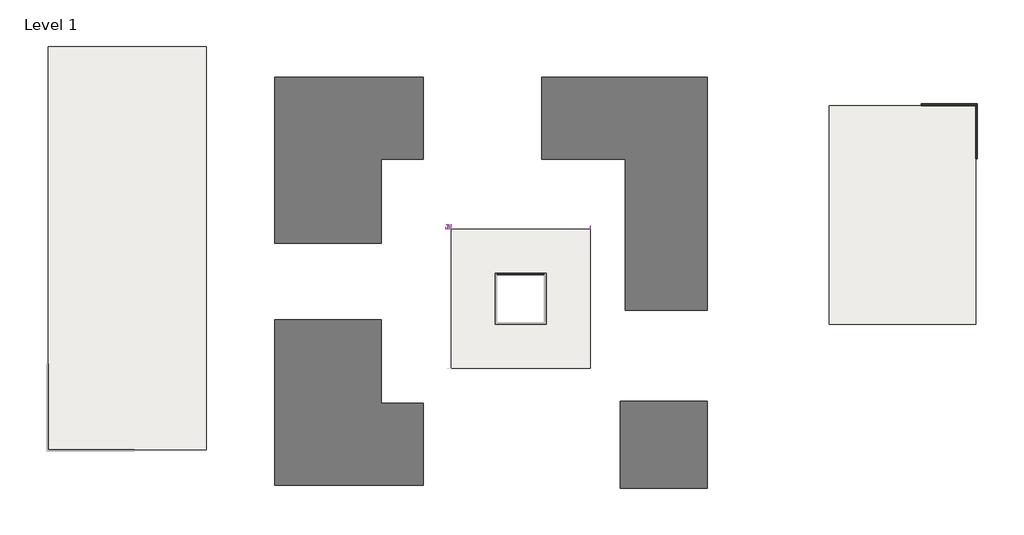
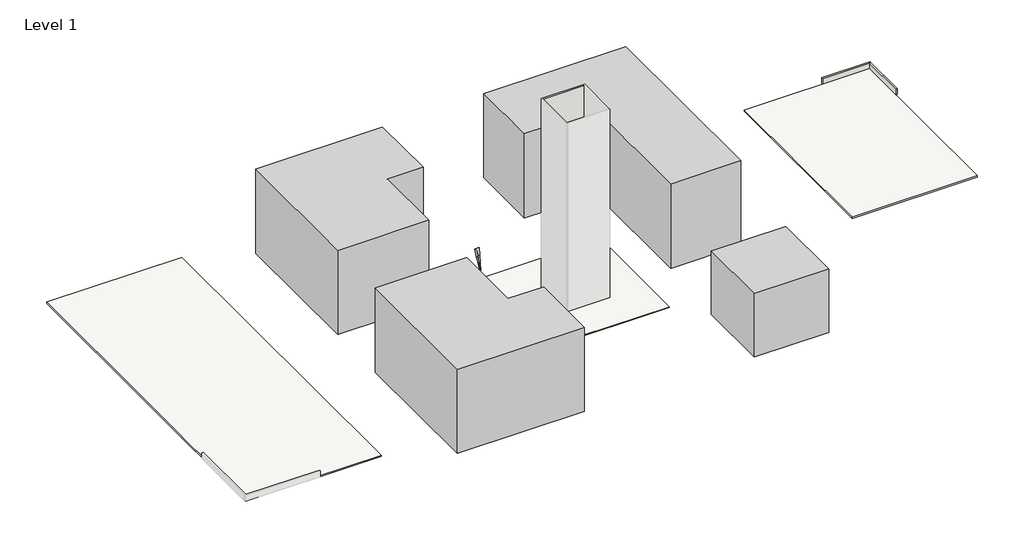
# One storey, part 2 of 2: 9 plates, 4 proxies, 3 slabs, 3 walls.
"""IFC4 building model written with IfcOpenShell, lengths in millimetres."""

import ifcopenshell
import ifcopenshell.guid

model = None  # the IFC model being written
_history = None  # IfcOwnerHistory: only IFC2X3 demands one
_inside = {}  # id of a spatial element -> (the spatial element, [elements in it])
_under = {}  # id of a project, library or spatial element -> (it, [spatial elements below it])
_declared = {}  # id of a project -> (the project, [libraries it declares])
_typed = {}  # id of a type object -> (the type object, [elements of that type])
_made_of = {}  # id of a material, layer set ... -> (it, [elements and type objects made of it])


def new_model(schema):
    """Start an empty IFC model of exactly this schema.

    Asked for "IFC4X3", IfcOpenShell would pick the latest addendum, in which some entities
    have other attributes; the version numbers below select the first issue.
    IFC2X3 requires an IfcOwnerHistory on every rooted entity: one is made here for all.
    """
    global model, _history
    if schema == "IFC4X3":
        model = ifcopenshell.file(schema_version=(4, 3, 0, 0))
    else:
        model = ifcopenshell.file(schema=schema)
    _inside.clear()
    _under.clear()
    _declared.clear()
    _typed.clear()
    _made_of.clear()
    _history = None
    if model.schema == "IFC2X3":
        org = make("IfcOrganization", Name="unknown")
        user = make(
            "IfcPersonAndOrganization",
            ThePerson=make("IfcPerson", FamilyName="unknown"),
            TheOrganization=org,
        )
        app = make(
            "IfcApplication",
            ApplicationDeveloper=org,
            Version="unknown",
            ApplicationFullName="unknown",
            ApplicationIdentifier="unknown",
        )
        _history = make(
            "IfcOwnerHistory",
            OwningUser=user,
            OwningApplication=app,
            ChangeAction="ADDED",
            CreationDate=0,
        )
    return model


def make(cls, **values):
    """One entity of the class cls with the attributes given. An attribute that is None is left unset."""
    return model.create_entity(
        cls, **{name: value for name, value in values.items() if value is not None}
    )


def rooted(cls, **values):
    """An entity with a GlobalId (a new one), such as an element, a storey or a relation."""
    return make(cls, GlobalId=ifcopenshell.guid.new(), OwnerHistory=_history, **values)


def si_unit(unit_type, name, prefix=None):
    """IfcSIUnit, for example si_unit("LENGTHUNIT", "METRE", prefix="MILLI")."""
    return make("IfcSIUnit", UnitType=unit_type, Prefix=prefix, Name=name)


def assignment(units):
    """IfcUnitAssignment: the units of a project."""
    return None if units is None else make("IfcUnitAssignment", Units=units)


def point(xyz):
    """IfcCartesianPoint."""
    return None if xyz is None else make("IfcCartesianPoint", Coordinates=xyz)


def direction(xyz):
    """IfcDirection."""
    return None if xyz is None else make("IfcDirection", DirectionRatios=xyz)


def frame(location, z_axis=None, x_axis=None):
    """IfcAxis2Placement3D, a coordinate frame: its origin and axes. An axis left out is left unset."""
    return make(
        "IfcAxis2Placement3D",
        Location=point(location),
        Axis=direction(z_axis),
        RefDirection=direction(x_axis),
    )


def origin():
    """The frame at (0, 0, 0) with its axes left unset."""
    return frame((0.0, 0.0, 0.0))


def origin_with_axes():
    """The frame at (0, 0, 0) with the z axis (0, 0, 1) and the x axis (1, 0, 0) written out."""
    return frame((0.0, 0.0, 0.0), z_axis=(0.0, 0.0, 1.0), x_axis=(1.0, 0.0, 0.0))


def place(relative_to, where):
    """IfcLocalPlacement: puts the frame where relative to a parent placement (None: the world)."""
    return make(
        "IfcLocalPlacement", PlacementRelTo=relative_to, RelativePlacement=where
    )


def context(
    kind, dimensions, precision=None, world=None, true_north=None, identifier=None
):
    """IfcGeometricRepresentationContext, for example the 3D "Model" context."""
    return make(
        "IfcGeometricRepresentationContext",
        ContextIdentifier=identifier,
        ContextType=kind,
        CoordinateSpaceDimension=dimensions,
        Precision=precision,
        WorldCoordinateSystem=world,
        TrueNorth=true_north,
    )


def project(units=None, contexts=None):
    """IfcProject with its units and contexts."""
    return rooted(
        "IfcProject",
        Name="project",
        RepresentationContexts=contexts,
        UnitsInContext=assignment(units),
    )


def spatial(cls, under=None, at=None, **own):
    """A site, building, storey or space (cls), placed at a placement, below another one or the project."""
    s = rooted(cls, ObjectPlacement=at, **own)
    if under is not None:
        _under.setdefault(under.id(), (under, []))[1].append(s)
    return s


def polyline(points):
    """IfcPolyline through the points."""
    return make("IfcPolyline", Points=[point(p) for p in points])


def outline(outer, holes=None, kind="AREA"):
    """IfcArbitraryClosedProfileDef: a profile drawn as a closed curve; with holes, ...WithVoids."""
    if holes is None:
        return make("IfcArbitraryClosedProfileDef", ProfileType=kind, OuterCurve=outer)
    return make(
        "IfcArbitraryProfileDefWithVoids",
        ProfileType=kind,
        OuterCurve=outer,
        InnerCurves=holes,
    )


def extrude(swept, where, along, depth):
    """IfcExtrudedAreaSolid: the profile swept, set in the frame where, extruded along a direction by depth."""
    return make(
        "IfcExtrudedAreaSolid",
        SweptArea=swept,
        Position=where,
        ExtrudedDirection=direction(along),
        Depth=depth,
    )


def faces_of(points, faces, orient=None, outer=None):
    """IfcFace entities. A face is a list of loops; a loop is a list of indices into points, from 0.

    orient and outer hold one flag for each loop. By default every Orientation is true, the
    first loop of a face is its IfcFaceOuterBound and the others are IfcFaceBound.
    """
    made = []
    for i, loops in enumerate(faces):
        bounds = []
        for j, loop in enumerate(loops):
            is_outer = j == 0 if outer is None else outer[i][j]
            bounds.append(
                make(
                    "IfcFaceOuterBound" if is_outer else "IfcFaceBound",
                    Bound=make("IfcPolyLoop", Polygon=[points[k] for k in loop]),
                    Orientation=True if orient is None else orient[i][j],
                )
            )
        made.append(make("IfcFace", Bounds=bounds))
    return made


def faceted_brep(points, faces, orient=None, outer=None, voids=None):
    """IfcFacetedBrep: a solid bounded by flat faces; with voids (closed shells), ...WithVoids."""
    shared = [point(p) for p in points]
    hull = make("IfcClosedShell", CfsFaces=faces_of(shared, faces, orient, outer))
    if voids is None:
        return make("IfcFacetedBrep", Outer=hull)
    return make(
        "IfcFacetedBrepWithVoids",
        Outer=hull,
        Voids=[
            make(cls, CfsFaces=faces_of(shared, fs, o, b)) for cls, fs, o, b in voids
        ],
    )


def shape(context_of_items, identifier, shape_type, items):
    """IfcShapeRepresentation: the items that make up one representation, for example the "Body"."""
    return make(
        "IfcShapeRepresentation",
        ContextOfItems=context_of_items,
        RepresentationIdentifier=identifier,
        RepresentationType=shape_type,
        Items=items,
    )


def source(mapping_origin, context_of_items, identifier, shape_type, items):
    """IfcRepresentationMap: a shape defined once, which mapped items show again and again."""
    return make(
        "IfcRepresentationMap",
        MappingOrigin=mapping_origin,
        MappedRepresentation=shape(context_of_items, identifier, shape_type, items),
    )


def transform(
    local_origin,
    x_axis=None,
    y_axis=None,
    z_axis=None,
    scale=None,
    scale2=None,
    scale3=None,
    uniform=True,
):
    """IfcCartesianTransformationOperator3D, or its non-uniform kind. x_axis, y_axis, z_axis: its Axis1, 2, 3."""
    if uniform:
        return make(
            "IfcCartesianTransformationOperator3D",
            Axis1=direction(x_axis),
            Axis2=direction(y_axis),
            LocalOrigin=point(local_origin),
            Scale=scale,
            Axis3=direction(z_axis),
        )
    return make(
        "IfcCartesianTransformationOperator3DnonUniform",
        Axis1=direction(x_axis),
        Axis2=direction(y_axis),
        LocalOrigin=point(local_origin),
        Scale=scale,
        Axis3=direction(z_axis),
        Scale2=scale2,
        Scale3=scale3,
    )


def mapped(mapping_source, mapping_target):
    """IfcMappedItem: shows the shape of a source again, moved by a transform."""
    return make(
        "IfcMappedItem", MappingSource=mapping_source, MappingTarget=mapping_target
    )


def made_of(thing, what):
    """Note that an element or type object is made of a material, layer set ...; save() writes the relation."""
    if what is not None:
        _made_of.setdefault(what.id(), (what, []))[1].append(thing)
    return thing


def element(
    cls,
    number,
    at=None,
    inside=None,
    cuts=None,
    type_object=None,
    material=None,
    context=None,
    identifier="Body",
    shape_type=None,
    held_by="IfcProductDefinitionShape",
    body=None,
    shapes=None,
    **own,
):
    """One element of the class cls, such as IfcWall. Its Tag is "e" and its number.

    at: its placement. inside: the storey or other place that contains it. cuts: it is an
    opening in that element (IfcRelVoidsElement). A single representation is given by context,
    identifier, shape_type and body (its items); several are given by shapes. held_by: the class
    of the entity that holds the representations. save() writes the other relations.
    """
    e = rooted(cls, Tag="e%d" % number, ObjectPlacement=at, **own)
    if body is not None:
        shapes = [shape(context, identifier, shape_type, body)]
    if shapes is not None:
        e.Representation = make(held_by, Representations=shapes)
    if inside is not None:
        _inside.setdefault(inside.id(), (inside, []))[1].append(e)
    if cuts is not None:
        rooted(
            "IfcRelVoidsElement", RelatingBuildingElement=cuts, RelatedOpeningElement=e
        )
    if type_object is not None:
        _typed.setdefault(type_object.id(), (type_object, []))[1].append(e)
    return made_of(e, material)


def aggregate(whole, parts):
    """IfcRelAggregates: a whole, such as a stair, and the parts it consists of."""
    return rooted("IfcRelAggregates", RelatingObject=whole, RelatedObjects=parts)


def save(model, path):
    """Write the relations noted so far, then the file.

    IfcRelAggregates (storeys below a building ...), IfcRelContainedInSpatialStructure (elements
    in a storey), IfcRelDefinesByType, IfcRelAssociatesMaterial and IfcRelDeclares: one each for
    every whole, place, type object, material and project.
    """
    for whole, parts in _under.values():
        aggregate(whole, parts)
    for where, things in _inside.values():
        rooted(
            "IfcRelContainedInSpatialStructure",
            RelatedElements=things,
            RelatingStructure=where,
        )
    for kind, things in _typed.values():
        rooted("IfcRelDefinesByType", RelatedObjects=things, RelatingType=kind)
    for what, things in _made_of.values():
        rooted("IfcRelAssociatesMaterial", RelatedObjects=things, RelatingMaterial=what)
    for by, libraries in _declared.values():
        rooted("IfcRelDeclares", RelatingContext=by, RelatedDefinitions=libraries)
    model.write(path)


def system_panel_glazed_c480d13c(model_context):
    return source(origin(), model_context, "Body", "SweptSolid", [
        extrude(outline(polyline([(0.0, -2e-07), (0.0, 217.0453553), (1524.0, 217.0453553), (1524.0, -217.0453553), (0.0, -2e-07)])), frame((0.0, 19.05, 0.0), z_axis=(0.0, 1.0, 0.0), x_axis=(0.0, 0.0, 1.0)), (0.0, 0.0, 1.0), 25.4),
    ])


def system_panel_glazed_4b2258e6(model_context):
    return source(origin(), model_context, "Body", "SweptSolid", [
        extrude(outline(polyline([(0.0, -108.5226777), (0.0, 325.5680328), (1524.0, 325.5680328), (1524.0, -325.5680328), (0.0, -108.5226777)])), frame((0.0, 19.05, 0.0), z_axis=(0.0, 1.0, 0.0), x_axis=(0.0, 0.0, 1.0)), (0.0, 0.0, 1.0), 25.4),
    ])


def system_panel_glazed_451cc983(model_context):
    return source(origin(), model_context, "Body", "SweptSolid", [
        extrude(outline(polyline([(0.0, -217.0453553), (0.0, 434.0907104), (1524.0, 434.0907104), (1524.0, -434.0907104), (0.0, -217.0453553)])), frame((0.0, 19.05, 0.0), z_axis=(0.0, 1.0, 0.0), x_axis=(0.0, 0.0, 1.0)), (0.0, 0.0, 1.0), 25.4),
    ])


def system_panel_glazed_300b4168(model_context):
    return source(origin(), model_context, "Body", "SweptSolid", [
        extrude(outline(polyline([(0.0, -217.0453551), (0.0, 0.0), (1524.0, 217.0453551), (1524.0, -217.0453551), (0.0, -217.0453551)])), frame((0.0, 19.05, 0.0), z_axis=(0.0, 1.0, 0.0), x_axis=(0.0, 0.0, 1.0)), (0.0, 0.0, 1.0), 25.4),
    ])


def system_panel_glazed_fd89f232(model_context):
    return source(origin(), model_context, "Body", "SweptSolid", [
        extrude(outline(polyline([(0.0, -325.5680326), (0.0, 108.5226775), (1524.0, 325.5680326), (1524.0, -325.5680326), (0.0, -325.5680326)])), frame((0.0, 19.05, 0.0), z_axis=(0.0, 1.0, 0.0), x_axis=(0.0, 0.0, 1.0)), (0.0, 0.0, 1.0), 25.4),
    ])


def system_panel_glazed_878d3e49(model_context):
    return source(origin(), model_context, "Body", "SweptSolid", [
        extrude(outline(polyline([(0.0, -434.0907102), (0.0, 217.0453551), (1524.0, 434.0907102), (1524.0, -434.0907102), (0.0, -434.0907102)])), frame((0.0, 19.05, 0.0), z_axis=(0.0, 1.0, 0.0), x_axis=(0.0, 0.0, 1.0)), (0.0, 0.0, 1.0), 25.4),
    ])


def system_panel_glazed_d622b967(model_context):
    return source(origin(), model_context, "Body", "SweptSolid", [
        extrude(outline(polyline([(1524.0, -109.6402879), (0.0, 109.6402876), (1524.0, 109.6402879), (1524.0, -109.6402879)])), frame((0.0, 19.05, 0.0), z_axis=(0.0, 1.0, 0.0), x_axis=(0.0, 0.0, 1.0)), (0.0, 0.0, 1.0), 25.4),
    ])


def system_panel_glazed_7b94502b(model_context):
    return source(origin(), model_context, "Body", "SweptSolid", [
        extrude(outline(polyline([(0.0, -2e-07), (0.0, 219.2805757), (1524.0, 219.2805757), (1524.0, -219.2805757), (0.0, -2e-07)])), frame((0.0, 19.05, 0.0), z_axis=(0.0, 1.0, 0.0), x_axis=(0.0, 0.0, 1.0)), (0.0, 0.0, 1.0), 25.4),
    ])


def system_panel_glazed_47a69896(model_context):
    return source(origin(), model_context, "Body", "SweptSolid", [
        extrude(outline(polyline([(0.0, -109.6402879), (0.0, 328.9208635), (1524.0, 328.9208635), (1524.0, -328.9208635), (0.0, -109.6402879)])), frame((0.0, 19.05, 0.0), z_axis=(0.0, 1.0, 0.0), x_axis=(0.0, 0.0, 1.0)), (0.0, 0.0, 1.0), 25.4),
    ])


model = new_model("IFC4")

# Units and contexts
model_context = context("Model", 3, world=origin())
ifc_project = project(units=[si_unit("LENGTHUNIT", "METRE", prefix="MILLI")], contexts=[model_context])

# Site, building, storey
site = spatial("IfcSite", under=ifc_project)
building = spatial("IfcBuilding", under=site)
storey = spatial("IfcBuildingStorey", under=building, Name="Level 1", Elevation=0.0)

# Proxies
placement = place(None, origin())
element("IfcBuildingElementProxy", 1, Name="Mass 2 : Mass 2", ObjectType="Mass 2 : Mass 2", at=placement, inside=storey, context=model_context, shape_type="SweptSolid", body=[
    extrude(outline(polyline([(-46778.4991609, 38481.4847906), (-20786.9995978, 38481.4847906), (-20786.9995978, 24058.6260033), (-28102.1995978, 24058.6260033), (-28102.1995978, 9393.945384), (-46778.4991609, 9393.945384), (-46778.4991609, 38481.4847906)])), origin_with_axes(), (0.0, 0.0, 1.0), 18288.0),
])
element("IfcBuildingElementProxy", 2, Name="Mass 3 : Mass 3", ObjectType="Mass 3 : Mass 3", at=placement, inside=storey, context=model_context, shape_type="SweptSolid", body=[
    extrude(outline(polyline([(29081.1060916, -18340.8416924), (29081.1060916, -33580.8416924), (13841.1060916, -33580.8416924), (13841.1060916, -18340.8416924), (29081.1060916, -18340.8416924)])), origin_with_axes(), (0.0, 0.0, 1.0), 13716.0),
])
element("IfcBuildingElementProxy", 3, Name="Mass 4 : Mass 2", ObjectType="Mass 4 : Mass 2", at=placement, inside=storey, context=model_context, shape_type="SweptSolid", body=[
    extrude(outline(polyline([(29081.1060916, 38481.4847906), (29081.1060916, -2408.7776786), (14658.2473043, -2408.7776786), (14658.2473043, 24058.6260033), (-6.433315, 24058.6260033), (-6.433315, 38481.4847906), (29081.1060916, 38481.4847906)])), origin_with_axes(), (0.0, 0.0, 1.0), 18288.0),
])
element("IfcBuildingElementProxy", 4, Name="Mass 5 : Mass 2", ObjectType="Mass 5 : Mass 2", at=placement, inside=storey, context=model_context, shape_type="SweptSolid", body=[
    extrude(outline(polyline([(-46778.4991609, -33124.6796861), (-46778.4991609, -4037.1402795), (-28102.1995978, -4037.1402795), (-28102.1995978, -18701.8208988), (-20786.9995978, -18701.8208988), (-20786.9995978, -33124.6796861), (-46778.4991609, -33124.6796861)])), origin_with_axes(), (0.0, 0.0, 1.0), 18288.0),
])

# Plates
system_panel_glazed_shape = system_panel_glazed_c480d13c(model_context)
element("IfcPlate", 5, ObjectType="System Panel : Glazed", at=placement, inside=storey, context=model_context, shape_type="MappedRepresentation", body=[
    mapped(system_panel_glazed_shape, transform((-16083.2480506, 12039.6744563, 1508.465218), x_axis=(1.0, 0.0, 0.0), y_axis=(0.0, 0.9898065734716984, -0.1424182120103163), z_axis=(0.0, 0.1424182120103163, 0.9898065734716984))),
])
system_panel_glazed_2_shape = system_panel_glazed_4b2258e6(model_context)
element("IfcPlate", 6, ObjectType="System Panel : Glazed", at=placement, inside=storey, context=model_context, shape_type="MappedRepresentation", body=[
    mapped(system_panel_glazed_2_shape, transform((-16191.7707282, 12256.7198114, 3016.9304359), x_axis=(1.0, 0.0, 0.0), y_axis=(0.0, 0.9898065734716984, -0.1424182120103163), z_axis=(0.0, 0.1424182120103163, 0.9898065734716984))),
])
system_panel_glazed_3_shape = system_panel_glazed_451cc983(model_context)
element("IfcPlate", 7, ObjectType="System Panel : Glazed", at=placement, inside=storey, context=model_context, shape_type="MappedRepresentation", body=[
    mapped(system_panel_glazed_3_shape, transform((-16300.2934057, 12473.7651665, 4525.3956539), x_axis=(1.0, 0.0, 0.0), y_axis=(0.0, 0.9898065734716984, -0.1424182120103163), z_axis=(0.0, 0.1424182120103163, 0.9898065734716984))),
])
system_panel_glazed_4_shape = system_panel_glazed_300b4168(model_context)
element("IfcPlate", 8, ObjectType="System Panel : Glazed", at=placement, inside=storey, context=model_context, shape_type="MappedRepresentation", body=[
    mapped(system_panel_glazed_4_shape, transform((-16083.2480508, 12039.6744563, 1508.465218), x_axis=(0.0, 1.0, 0.0), y_axis=(-0.9898065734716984, 0.0, -0.1424182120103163), z_axis=(-0.1424182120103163, 0.0, 0.9898065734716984))),
])
system_panel_glazed_5_shape = system_panel_glazed_fd89f232(model_context)
element("IfcPlate", 9, ObjectType="System Panel : Glazed", at=placement, inside=storey, context=model_context, shape_type="MappedRepresentation", body=[
    mapped(system_panel_glazed_5_shape, transform((-16300.2934059, 12148.1971338, 3016.9304359), x_axis=(0.0, 1.0, 0.0), y_axis=(-0.9898065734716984, 0.0, -0.1424182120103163), z_axis=(-0.1424182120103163, 0.0, 0.9898065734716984))),
])
system_panel_glazed_6_shape = system_panel_glazed_878d3e49(model_context)
element("IfcPlate", 10, ObjectType="System Panel : Glazed", at=placement, inside=storey, context=model_context, shape_type="MappedRepresentation", body=[
    mapped(system_panel_glazed_6_shape, transform((-16517.338761, 12256.7198114, 4525.3956539), x_axis=(0.0, 1.0, 0.0), y_axis=(-0.9898065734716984, 0.0, -0.1424182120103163), z_axis=(-0.1424182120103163, 0.0, 0.9898065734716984))),
])
system_panel_glazed_7_shape = system_panel_glazed_d622b967(model_context)
element("IfcPlate", 11, ObjectType="System Panel : Glazed", at=placement, inside=storey, context=model_context, shape_type="MappedRepresentation", body=[
    mapped(system_panel_glazed_7_shape, transform((8517.7973043, 11932.2693888, 0.0), x_axis=(0.0, -1.0, 0.0), y_axis=(1.0, 0.0, 0.0), z_axis=(0.0, 0.0, 1.0))),
])
system_panel_glazed_8_shape = system_panel_glazed_7b94502b(model_context)
element("IfcPlate", 12, ObjectType="System Panel : Glazed", at=placement, inside=storey, context=model_context, shape_type="MappedRepresentation", body=[
    mapped(system_panel_glazed_8_shape, transform((8517.7973043, 12041.9096765, 1524.0), x_axis=(0.0, -1.0, 0.0), y_axis=(1.0, 0.0, 0.0), z_axis=(0.0, 0.0, 1.0))),
])
system_panel_glazed_9_shape = system_panel_glazed_47a69896(model_context)
element("IfcPlate", 13, ObjectType="System Panel : Glazed", at=placement, inside=storey, context=model_context, shape_type="MappedRepresentation", body=[
    mapped(system_panel_glazed_9_shape, transform((8517.7973043, 12151.5499643, 3048.0), x_axis=(0.0, -1.0, 0.0), y_axis=(1.0, 0.0, 0.0), z_axis=(0.0, 0.0, 1.0))),
])

# Slabs
element("IfcSlab", 14, ObjectType="3\" LW Concrete on 2\" Metal Deck", at=placement, inside=storey, context=model_context, shape_type="SweptSolid", body=[
    extrude(outline(polyline([(-15866.2026957, -12561.3708988), (-15866.2026957, 11822.6291012), (8517.7973043, 11822.6291012), (8517.7973043, -12561.3708988), (-15866.2026957, -12561.3708988)]), holes=[polyline([(-7844.5651957, 3800.9916012), (-7844.5651957, -4539.7333988), (496.1598043, -4539.7333988), (496.1598043, 3800.9916012), (-7844.5651957, 3800.9916012)])]), frame((0.0, 0.0, -127.0), z_axis=(0.0, 0.0, 1.0), x_axis=(1.0, 0.0, 0.0)), (0.0, 0.0, 1.0), 127.0),
])
element("IfcSlab", 15, ObjectType="Generic - 12\"", at=placement, inside=storey, context=model_context, shape_type="SweptSolid", body=[
    extrude(outline(polyline([(-58787.3540673, 43866.8392684), (-58787.3540673, -26846.7607316), (-86524.1540673, -26846.7607316), (-86524.1540673, 43866.8392684), (-58787.3540673, 43866.8392684)])), frame((0.0, 0.0, -254.0), z_axis=(0.0, 0.0, 1.0), x_axis=(1.0, 0.0, 0.0)), (0.0, 0.0, 1.0), 304.8),
])
element("IfcSlab", 16, ObjectType="Generic - 12\"", at=placement, inside=storey, context=model_context, shape_type="SweptSolid", body=[
    extrude(outline(polyline([(76146.6791962, 33516.8474126), (76146.6791962, -4839.7708988), (50486.7635766, -4839.7708988), (50486.7635766, 33516.8474126), (76146.6791962, 33516.8474126)])), frame((0.0, 0.0, -254.0), z_axis=(0.0, 0.0, 1.0), x_axis=(1.0, 0.0, 0.0)), (0.0, 0.0, 1.0), 304.8),
])

# Walls
element("IfcWall", 17, ObjectType="Generic - 12\"", at=placement, inside=storey, context=model_context, shape_type="Brep", body=[
    faceted_brep([(66567.0899349, 33516.8474126, 0.0), (76146.6791962, 33516.8474126, 0.0), (76451.4791962, 33516.8474126, 0.0), (76451.4791962, 33516.8474126, 1219.2), (76146.6791962, 33516.8474126, 1219.2), (66567.0899349, 33516.8474126, 1219.2), (66567.0899349, 33821.6474126, 0.0), (66567.0899349, 33821.6474126, 1219.2), (76451.4791962, 33821.6474126, 1219.2), (76451.4791962, 33821.6474126, 0.0)], [[[0, 1, 2, 3, 4, 5]], [[6, 7, 8, 9]], [[2, 1, 0, 6, 9]], [[5, 4, 3, 8, 7]], [[0, 5, 7, 6]], [[3, 2, 9, 8]]]),
])
element("IfcWall", 18, ObjectType="Generic - 12\"", at=placement, inside=storey, context=model_context, shape_type="SweptSolid", body=[
    extrude(outline(polyline([(76146.6791962, 24220.4474126), (76146.6791962, 33516.8474126), (76451.4791962, 33516.8474126), (76451.4791962, 24220.4474126), (76146.6791962, 24220.4474126)])), origin_with_axes(), (0.0, 0.0, 1.0), 1219.2),
])
element("IfcWall", 19, ObjectType="Generic - 12\" Masonry", at=placement, inside=storey, context=model_context, shape_type="SweptSolid", body=[
    extrude(outline(polyline([(-7844.5651957, 4096.2666012), (496.1598043, 4096.2666012), (496.1598043, 3800.9916012), (-7844.5651957, 3800.9916012), (-7844.5651957, 4096.2666012)])), origin_with_axes(), (0.0, 0.0, 1.0), 40843.2),
])

save(model, "model.ifc")
